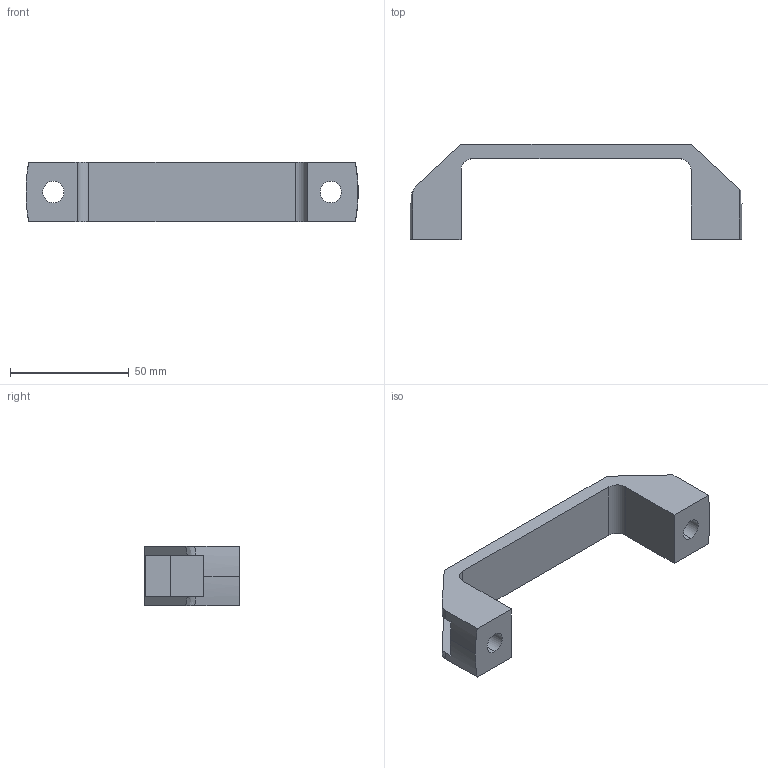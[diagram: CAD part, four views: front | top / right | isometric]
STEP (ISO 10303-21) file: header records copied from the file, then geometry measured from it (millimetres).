
FILE_DESCRIPTION (( 'STEP AP203' ), '1' );
FILE_NAME ('LIMA-HANDLE-B.STEP', '2018-10-11T05:18:16', ( '' ), ( '' ), 'SwSTEP 2.0', 'SolidWorks 2017', '' );
FILE_SCHEMA (( 'CONFIG_CONTROL_DESIGN' ));
Length unit declared in the file: millimetre
Products named in the file (1): LIMA-HANDLE-B
Bounding box: 139.94 x 40 x 25 mm (x, y, z)
Volume: 32819.1 mm3; surface area: 16081.9 mm2
Topology: 1 solids, 1 shells, 35 faces, 93 edges, 62 vertices
Faces by surface type: plane 20, cylinder 13, bspline 2
Entity records: 1224 total; most frequent: CARTESIAN_POINT 271, ORIENTED_EDGE 186, DIRECTION 177, EDGE_CURVE 93, VERTEX_POINT 62, AXIS2_PLACEMENT_3D 60, VECTOR 57, LINE 57
